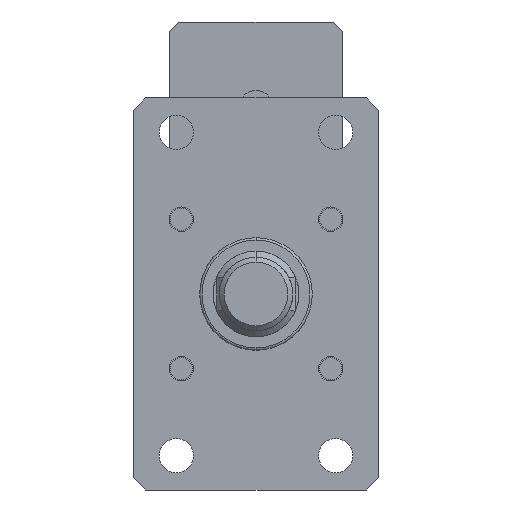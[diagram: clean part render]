
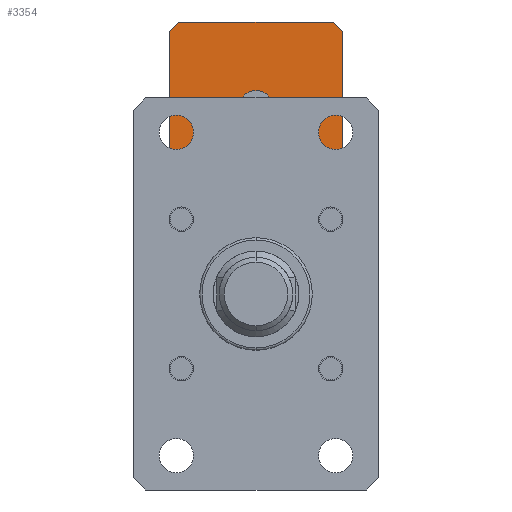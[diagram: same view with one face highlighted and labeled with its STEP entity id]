
A CAD part, front view. The second image highlights one B-rep face of the part: STEP entity #3354.
In plain terms, the highlighted planar face has unit normal (0, -1, 0).
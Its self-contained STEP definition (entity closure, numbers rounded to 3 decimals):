
#20 = EDGE_CURVE ( 'NONE', #2048, #4881, #5123, .T. ) ;
#92 = ORIENTED_EDGE ( 'NONE', *, *, #5416, .F. ) ;
#131 = EDGE_CURVE ( 'NONE', #4630, #5096, #5040, .T. ) ;
#267 = VERTEX_POINT ( 'NONE', #2325 ) ;
#309 = VECTOR ( 'NONE', #4968, 1000. ) ;
#328 = DIRECTION ( 'NONE',  ( 0.707, 0., 0.707 ) ) ;
#476 = CARTESIAN_POINT ( 'NONE',  ( -31.5, 160., 111. ) ) ;
#482 = LINE ( 'NONE', #6405, #1605 ) ;
#543 = DIRECTION ( 'NONE',  ( 0., 0., -1. ) ) ;
#548 = DIRECTION ( 'NONE',  ( 0., 0., -1. ) ) ;
#575 = CARTESIAN_POINT ( 'NONE',  ( 35.5, 160., 107. ) ) ;
#601 = DIRECTION ( 'NONE',  ( 0., -1., 0. ) ) ;
#648 = AXIS2_PLACEMENT_3D ( 'NONE', #2204, #6682, #3329 ) ;
#665 = EDGE_CURVE ( 'NONE', #267, #4630, #3552, .T. ) ;
#674 = CARTESIAN_POINT ( 'NONE',  ( 0., 160., 83. ) ) ;
#686 = VECTOR ( 'NONE', #328, 1000. ) ;
#748 = ORIENTED_EDGE ( 'NONE', *, *, #3107, .T. ) ;
#935 = VERTEX_POINT ( 'NONE', #6647 ) ;
#987 = ORIENTED_EDGE ( 'NONE', *, *, #131, .T. ) ;
#1086 = CARTESIAN_POINT ( 'NONE',  ( -35.5, 160., 44. ) ) ;
#1409 = VERTEX_POINT ( 'NONE', #476 ) ;
#1442 = EDGE_LOOP ( 'NONE', ( #92, #6501 ) ) ;
#1481 = ORIENTED_EDGE ( 'NONE', *, *, #3532, .F. ) ;
#1509 = ORIENTED_EDGE ( 'NONE', *, *, #6755, .T. ) ;
#1605 = VECTOR ( 'NONE', #6961, 1000. ) ;
#1631 = CARTESIAN_POINT ( 'NONE',  ( 35.5, 160., 111. ) ) ;
#1636 = PLANE ( 'NONE',  #648 ) ;
#1924 = CARTESIAN_POINT ( 'NONE',  ( 31.5, 160., 111. ) ) ;
#2011 = CARTESIAN_POINT ( 'NONE',  ( -35.5, 160., 44. ) ) ;
#2048 = VERTEX_POINT ( 'NONE', #2595 ) ;
#2204 = CARTESIAN_POINT ( 'NONE',  ( -35.5, 160., 111. ) ) ;
#2214 = ORIENTED_EDGE ( 'NONE', *, *, #20, .T. ) ;
#2325 = CARTESIAN_POINT ( 'NONE',  ( -35.5, 160., 107. ) ) ;
#2412 = VECTOR ( 'NONE', #2758, 1000. ) ;
#2510 = EDGE_CURVE ( 'NONE', #1409, #267, #482, .T. ) ;
#2595 = CARTESIAN_POINT ( 'NONE',  ( 31.5, 160., 40. ) ) ;
#2652 = AXIS2_PLACEMENT_3D ( 'NONE', #3933, #601, #4482 ) ;
#2656 = CARTESIAN_POINT ( 'NONE',  ( -35.5, 160., 111. ) ) ;
#2742 = EDGE_LOOP ( 'NONE', ( #1509, #2214, #1481, #748, #5102, #4729, #3873, #987 ) ) ;
#2758 = DIRECTION ( 'NONE',  ( -0.707, 0., 0.707 ) ) ;
#3002 = CARTESIAN_POINT ( 'NONE',  ( -31.5, 160., 40. ) ) ;
#3107 = EDGE_CURVE ( 'NONE', #5930, #7000, #6838, .T. ) ;
#3193 = EDGE_CURVE ( 'NONE', #4806, #935, #3352, .T. ) ;
#3210 = VECTOR ( 'NONE', #4875, 1000. ) ;
#3291 = CIRCLE ( 'NONE', #3961, 7.5 ) ;
#3310 = VECTOR ( 'NONE', #6944, 1000. ) ;
#3329 = DIRECTION ( 'NONE',  ( 0., 0., 1. ) ) ;
#3352 = CIRCLE ( 'NONE', #2652, 7.5 ) ;
#3354 = ADVANCED_FACE ( 'NONE', ( #5251, #5436 ), #1636, .F. ) ;
#3499 = VECTOR ( 'NONE', #543, 1000. ) ;
#3532 = EDGE_CURVE ( 'NONE', #5930, #4881, #6470, .T. ) ;
#3552 = LINE ( 'NONE', #2656, #3210 ) ;
#3560 = VECTOR ( 'NONE', #5334, 1000. ) ;
#3873 = ORIENTED_EDGE ( 'NONE', *, *, #665, .T. ) ;
#3885 = DIRECTION ( 'NONE',  ( 0., -1., 0. ) ) ;
#3933 = CARTESIAN_POINT ( 'NONE',  ( 0., 160., 75.5 ) ) ;
#3961 = AXIS2_PLACEMENT_3D ( 'NONE', #7221, #3885, #548 ) ;
#4132 = CARTESIAN_POINT ( 'NONE',  ( -35.5, 160., 40. ) ) ;
#4482 = DIRECTION ( 'NONE',  ( 0., 0., -1. ) ) ;
#4630 = VERTEX_POINT ( 'NONE', #1086 ) ;
#4729 = ORIENTED_EDGE ( 'NONE', *, *, #2510, .T. ) ;
#4766 = LINE ( 'NONE', #4132, #3310 ) ;
#4806 = VERTEX_POINT ( 'NONE', #674 ) ;
#4875 = DIRECTION ( 'NONE',  ( 0., 0., -1. ) ) ;
#4881 = VERTEX_POINT ( 'NONE', #6302 ) ;
#4968 = DIRECTION ( 'NONE',  ( 1., 0., 0. ) ) ;
#5040 = LINE ( 'NONE', #2011, #3560 ) ;
#5096 = VERTEX_POINT ( 'NONE', #3002 ) ;
#5102 = ORIENTED_EDGE ( 'NONE', *, *, #5856, .F. ) ;
#5123 = LINE ( 'NONE', #6461, #686 ) ;
#5251 = FACE_BOUND ( 'NONE', #1442, .T. ) ;
#5334 = DIRECTION ( 'NONE',  ( 0.707, 0., -0.707 ) ) ;
#5416 = EDGE_CURVE ( 'NONE', #935, #4806, #3291, .T. ) ;
#5436 = FACE_OUTER_BOUND ( 'NONE', #2742, .T. ) ;
#5513 = CARTESIAN_POINT ( 'NONE',  ( -35.5, 160., 111. ) ) ;
#5856 = EDGE_CURVE ( 'NONE', #1409, #7000, #6263, .T. ) ;
#5930 = VERTEX_POINT ( 'NONE', #575 ) ;
#6263 = LINE ( 'NONE', #5513, #309 ) ;
#6302 = CARTESIAN_POINT ( 'NONE',  ( 35.5, 160., 44. ) ) ;
#6405 = CARTESIAN_POINT ( 'NONE',  ( -31.5, 160., 111. ) ) ;
#6461 = CARTESIAN_POINT ( 'NONE',  ( 35.5, 160., 44. ) ) ;
#6470 = LINE ( 'NONE', #1631, #3499 ) ;
#6501 = ORIENTED_EDGE ( 'NONE', *, *, #3193, .F. ) ;
#6647 = CARTESIAN_POINT ( 'NONE',  ( 0., 160., 68. ) ) ;
#6682 = DIRECTION ( 'NONE',  ( 0., 1., 0. ) ) ;
#6755 = EDGE_CURVE ( 'NONE', #5096, #2048, #4766, .T. ) ;
#6838 = LINE ( 'NONE', #7210, #2412 ) ;
#6944 = DIRECTION ( 'NONE',  ( 1., 0., 0. ) ) ;
#6961 = DIRECTION ( 'NONE',  ( -0.707, 0., -0.707 ) ) ;
#7000 = VERTEX_POINT ( 'NONE', #1924 ) ;
#7210 = CARTESIAN_POINT ( 'NONE',  ( 31.5, 160., 111. ) ) ;
#7221 = CARTESIAN_POINT ( 'NONE',  ( 0., 160., 75.5 ) ) ;
